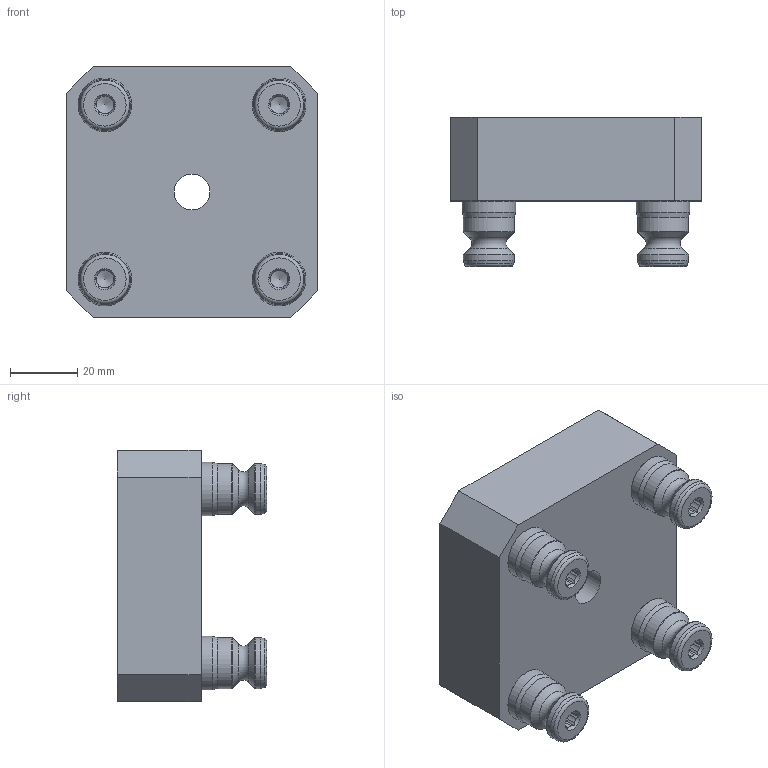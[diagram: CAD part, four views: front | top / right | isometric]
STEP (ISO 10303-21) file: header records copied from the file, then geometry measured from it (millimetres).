
FILE_DESCRIPTION (( 'STEP AP214' ), '1' );
FILE_NAME ('A52-HTS.STEP', '2025-08-13T05:07:49', ( '' ), ( '' ), 'SwSTEP 2.0', 'SolidWorks 2025', '' );
FILE_SCHEMA (( 'AUTOMOTIVE_DESIGN' ));
Length unit declared in the file: inch
Products named in the file (5): A52-HTS; M8X20.FPSS_WEBSITE_93245A145; PS16F_WEBSITE; D_A52-HTS-1; PS16F-1_WEBSITE_HARD TURN
Assembly tree (7 placements, depth 3):
  A52-HTS
    D_A52-HTS-1
    PS16F_WEBSITE  x4
      PS16F-1_WEBSITE_HARD TURN
      M8X20.FPSS_WEBSITE_93245A145
Bounding box: 75 x 44.56 x 75 mm (x, y, z)
Volume: 145897.9 mm3; surface area: 30623.1 mm2
Topology: 9 solids, 9 shells, 231 faces, 543 edges, 344 vertices
Faces by surface type: plane 112, cone 48, cylinder 43, torus 28
Full cylindrical faces by diameter (mm): 5.25 x4, 6.02 x2, 6.8 x8, 8 x8, 10.716 x1, 11.991 x4, 12.017 x4, 15.202 x8, 15.997 x4
Entity records: 2617 total; most frequent: CARTESIAN_POINT 372, DIRECTION 364, ORIENTED_EDGE 258, AXIS2_PLACEMENT_3D 155, EDGE_LOOP 132, EDGE_CURVE 129, FACE_OUTER_BOUND 107, VERTEX_POINT 103
